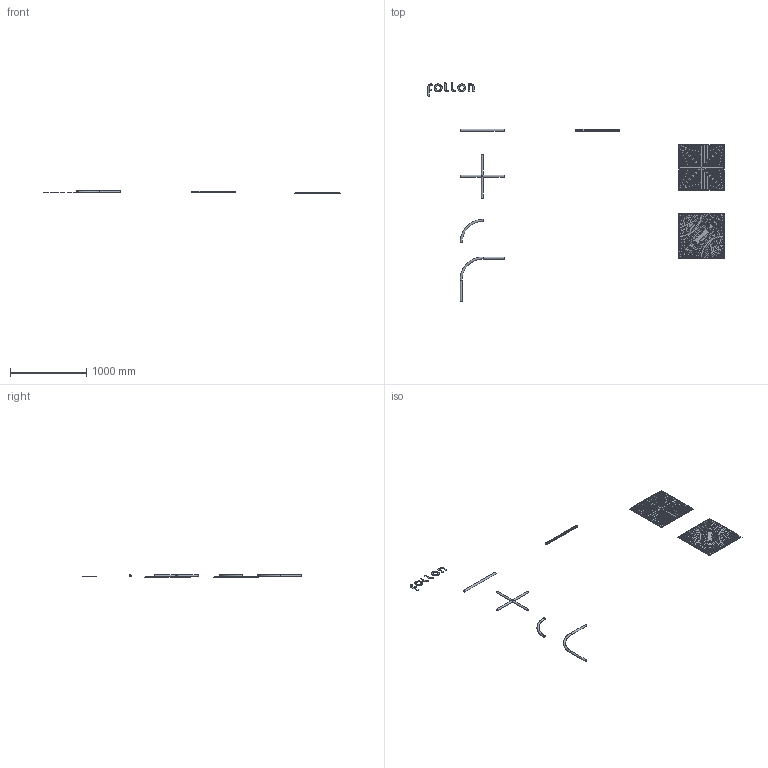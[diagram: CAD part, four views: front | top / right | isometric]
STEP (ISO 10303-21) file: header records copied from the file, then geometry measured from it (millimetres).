
FILE_DESCRIPTION(/* description */ (''),/* implementation_level */ '2;1');
FILE_NAME(/* name */ 'follon',/* time_stamp */ '2026-01-07T15:01:11+01:00',/* author */ (''),/* organization */ (''),/* preprocessor_version */ 'ST-DEVELOPER v19.2',/* originating_system */ 'Rhino 8.26',/* authorisation */ '');
FILE_SCHEMA (('CONFIG_CONTROL_DESIGN'));
Length unit declared in the file: millimetre
Products named in the file (1): Document
Bounding box: 3875.54 x 2854.79 x 32 mm (x, y, z)
Volume: 1777348.1 mm3; surface area: 1319717 mm2
Topology: 11 solids, 19 shells, 1059 faces, 3502 edges, 3020 vertices
Faces by surface type: bspline 450, cylinder 332, plane 277
Full cylindrical faces by diameter (mm): 2.195 x4, 26 x7
Entity records: 80037 total; most frequent: CARTESIAN_POINT 62010, ORIENTED_EDGE 4955, EDGE_CURVE 2489, DIRECTION 1663, VERTEX_POINT 1454, B_SPLINE_CURVE_WITH_KNOTS 1388, AXIS2_PLACEMENT_3D 1135, EDGE_LOOP 1062
